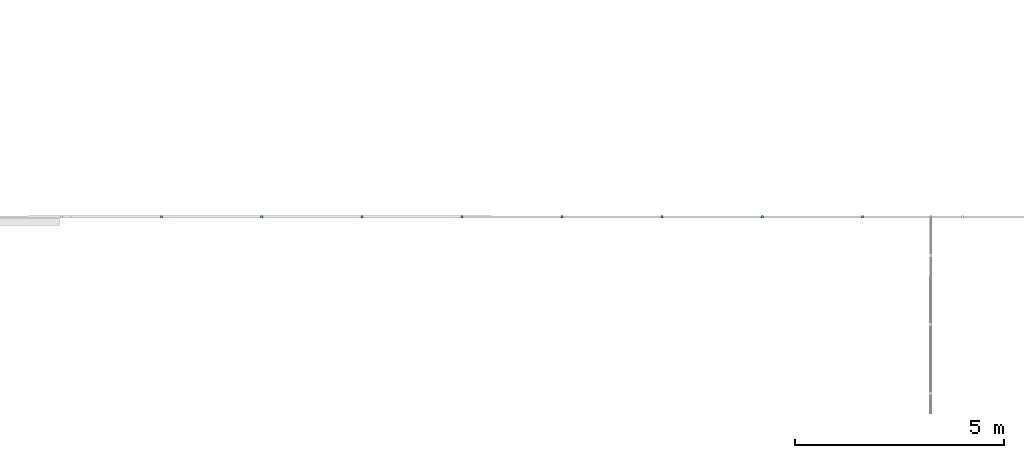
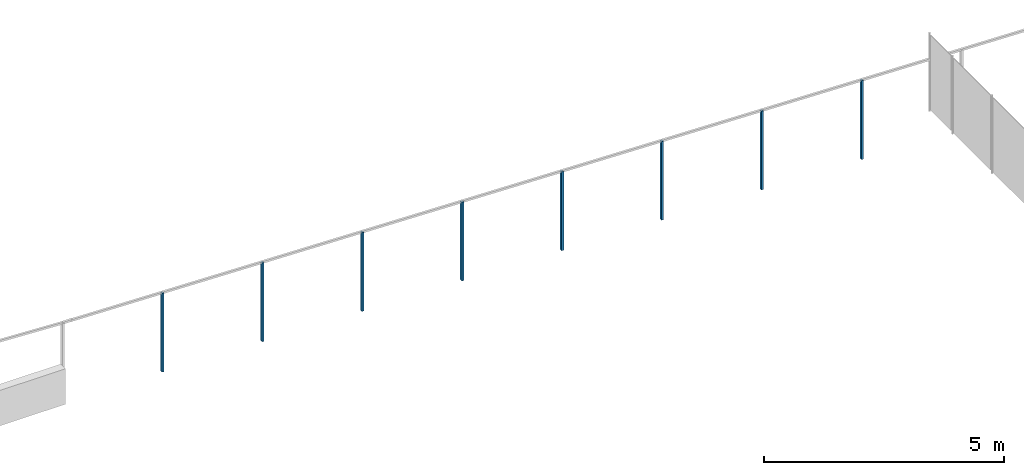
# One storey, part 64 of 91: 8 building element parts, 1 element without a shape of its own.
"""IFC2X3 building model written with IfcOpenShell, lengths in metres."""

from ifc_helpers import new_model, entity, si_unit, converted_unit, derived_unit, money_unit, direction, frame, origin_with_axes, place, context, subcontext, project, spatial, faceted_brep, material, type_object, element, aggregate, save


model = new_model("IFC2X3")

# Units and contexts
model_context = context("Model", 3, precision=1e-05, world=origin_with_axes(), true_north=direction((0.0, 1.0)))
body_context = subcontext(model_context, "Body", "Model", "MODEL_VIEW")
ifc_project = project(units=[si_unit("LENGTHUNIT", "METRE"), si_unit("AREAUNIT", "SQUARE_METRE"), si_unit("VOLUMEUNIT", "CUBIC_METRE"), converted_unit("PLANEANGLEUNIT", "DEGREE", entity("IfcPlaneAngleMeasure", 0.0174532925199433), si_unit("PLANEANGLEUNIT", "RADIAN"), dimensions=[0, 0, 0, 0, 0, 0, 0]), money_unit("EUR"), converted_unit("TIMEUNIT", "Year", entity("IfcTimeMeasure", 31557600.0), si_unit("TIMEUNIT", "SECOND"), dimensions=[0, 0, 1, 0, 0, 0, 0]), si_unit("MASSUNIT", "GRAM", prefix="KILO"), si_unit("THERMODYNAMICTEMPERATUREUNIT", "DEGREE_CELSIUS"), si_unit("LUMINOUSINTENSITYUNIT", "LUMEN"), si_unit("ENERGYUNIT", "JOULE", prefix="MEGA"), derived_unit("THERMALCONDUCTANCEUNIT", [(si_unit("POWERUNIT", "WATT"), 1), (si_unit("LENGTHUNIT", "METRE"), -1), (si_unit("THERMODYNAMICTEMPERATUREUNIT", "KELVIN"), -1)]), derived_unit("SPECIFICHEATCAPACITYUNIT", [(si_unit("ENERGYUNIT", "JOULE"), 1), (si_unit("MASSUNIT", "GRAM", prefix="KILO"), -1), (si_unit("THERMODYNAMICTEMPERATUREUNIT", "KELVIN"), -1)]), derived_unit("MASSDENSITYUNIT", [(si_unit("MASSUNIT", "GRAM", prefix="KILO"), 1), (si_unit("VOLUMEUNIT", "CUBIC_METRE"), -1)])], contexts=[model_context])

# Site, building, storey
site_placement = place(None, origin_with_axes())
site = spatial("IfcSite", under=ifc_project, at=site_placement, Name="Site", CompositionType="ELEMENT")
building_placement = place(site_placement, origin_with_axes())
building = spatial("IfcBuilding", under=site, at=building_placement, Name="Bâtiment", CompositionType="ELEMENT")
storey_placement = place(building_placement, origin_with_axes())
storey = spatial("IfcBuildingStorey", under=building, at=storey_placement, Name="RDC", CompositionType="ELEMENT", Elevation=0.0)

# Proxy, building element parts
building_element_proxy_type = type_object("IfcBuildingElementProxyType", Name="Type de garde-corps", PredefinedType="NOTDEFINED")
proxy_placement = place(storey_placement, frame((79.63337255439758, 3.614023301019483, -2.37161404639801), z_axis=(0.0, 0.0, 1.0), x_axis=(1.0, 0.0, 0.0)))
proxy = element("IfcBuildingElementProxy", 1, at=proxy_placement, inside=storey, type_object=building_element_proxy_type, Name="RAMPE-004")
ifc_material = material(Name="Acier Galva")
building_element_part_1_placement = place(proxy_placement, origin_with_axes())
building_element_part_1 = element("IfcBuildingElementPart", 2, at=building_element_part_1_placement, material=ifc_material, Name="Acier Galva", context=body_context, shape_type="Brep", body=[
    faceted_brep([(-32.26603368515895, 3.418790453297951, 1.744220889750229), (-32.26604590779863, 3.352790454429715, 1.744220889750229), (-32.26604590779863, 3.352790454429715, 3.744220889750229), (-32.26603368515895, 3.41879045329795, 3.744220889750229), (-32.21603368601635, 3.418781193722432, 1.742792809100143), (-32.21604590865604, 3.352781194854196, 1.742792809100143), (-32.21604590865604, 3.352781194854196, 3.742792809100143), (-32.21603368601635, 3.418781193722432, 3.742792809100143)], [[[0, 1, 2, 3]], [[0, 4, 5, 1]], [[1, 5, 6, 2]], [[3, 2, 6, 7]], [[4, 0, 3, 7]], [[5, 4, 7, 6]]]),
])
building_element_part_2_placement = place(proxy_placement, origin_with_axes())
building_element_part_2 = element("IfcBuildingElementPart", 3, at=building_element_part_2_placement, material=ifc_material, Name="Acier Galva", context=body_context, shape_type="Brep", body=[
    faceted_brep([(-34.66469285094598, 3.419234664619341, 1.812730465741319), (-34.66470507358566, 3.353234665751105, 1.812730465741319), (-34.66470507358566, 3.353234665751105, 3.812730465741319), (-34.66469285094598, 3.41923466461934, 3.812730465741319), (-34.61469285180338, 3.419225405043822, 1.811302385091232), (-34.61470507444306, 3.353225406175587, 1.811302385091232), (-34.61470507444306, 3.353225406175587, 3.811302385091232), (-34.61469285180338, 3.419225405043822, 3.811302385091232)], [[[0, 1, 2, 3]], [[0, 4, 5, 1]], [[1, 5, 6, 2]], [[3, 2, 6, 7]], [[4, 0, 3, 7]], [[5, 4, 7, 6]]]),
])
building_element_part_3_placement = place(proxy_placement, origin_with_axes())
building_element_part_3 = element("IfcBuildingElementPart", 4, at=building_element_part_3_placement, material=ifc_material, Name="Acier Galva", context=body_context, shape_type="Brep", body=[
    faceted_brep([(-37.06335201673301, 3.419678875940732, 1.881240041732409), (-37.06336423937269, 3.353678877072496, 1.881240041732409), (-37.06336423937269, 3.353678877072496, 3.881240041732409), (-37.06335201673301, 3.419678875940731, 3.881240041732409), (-37.01335201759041, 3.419669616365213, 1.879811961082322), (-37.01336424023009, 3.353669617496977, 1.879811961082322), (-37.01336424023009, 3.353669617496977, 3.879811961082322), (-37.01335201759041, 3.419669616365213, 3.879811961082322)], [[[0, 1, 2, 3]], [[0, 4, 5, 1]], [[1, 5, 6, 2]], [[3, 2, 6, 7]], [[4, 0, 3, 7]], [[5, 4, 7, 6]]]),
])
building_element_part_4_placement = place(proxy_placement, origin_with_axes())
building_element_part_4 = element("IfcBuildingElementPart", 5, at=building_element_part_4_placement, material=ifc_material, Name="Acier Galva", context=body_context, shape_type="Brep", body=[
    faceted_brep([(-39.46201118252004, 3.420123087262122, 1.949749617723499), (-39.46202340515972, 3.354123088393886, 1.949749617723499), (-39.46202340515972, 3.354123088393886, 3.949749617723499), (-39.46201118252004, 3.420123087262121, 3.949749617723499), (-39.41201118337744, 3.420113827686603, 1.948321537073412), (-39.41202340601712, 3.354113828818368, 1.948321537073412), (-39.41202340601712, 3.354113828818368, 3.948321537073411), (-39.41201118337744, 3.420113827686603, 3.948321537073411)], [[[0, 1, 2, 3]], [[0, 4, 5, 1]], [[1, 5, 6, 2]], [[3, 2, 6, 7]], [[4, 0, 3, 7]], [[5, 4, 7, 6]]]),
])
building_element_part_5_placement = place(proxy_placement, origin_with_axes())
building_element_part_5 = element("IfcBuildingElementPart", 6, at=building_element_part_5_placement, material=ifc_material, Name="Acier Galva", context=body_context, shape_type="Brep", body=[
    faceted_brep([(-41.86067034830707, 3.420567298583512, 2.018259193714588), (-41.86068257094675, 3.354567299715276, 2.018259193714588), (-41.86068257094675, 3.354567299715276, 4.018259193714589), (-41.86067034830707, 3.420567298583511, 4.018259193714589), (-41.81067034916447, 3.420558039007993, 2.016831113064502), (-41.81068257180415, 3.354558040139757, 2.016831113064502), (-41.81068257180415, 3.354558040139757, 4.016831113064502), (-41.81067034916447, 3.420558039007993, 4.016831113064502)], [[[0, 1, 2, 3]], [[0, 4, 5, 1]], [[1, 5, 6, 2]], [[3, 2, 6, 7]], [[4, 0, 3, 7]], [[5, 4, 7, 6]]]),
])
building_element_part_6_placement = place(proxy_placement, origin_with_axes())
building_element_part_6 = element("IfcBuildingElementPart", 7, at=building_element_part_6_placement, material=ifc_material, Name="Acier Galva", context=body_context, shape_type="Brep", body=[
    faceted_brep([(-44.2593295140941, 3.421011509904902, 2.086768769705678), (-44.25934173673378, 3.355011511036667, 2.086768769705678), (-44.25934173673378, 3.355011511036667, 4.086768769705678), (-44.2593295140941, 3.421011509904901, 4.086768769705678), (-44.2093295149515, 3.421002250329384, 2.085340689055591), (-44.20934173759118, 3.355002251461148, 2.085340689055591), (-44.20934173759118, 3.355002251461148, 4.085340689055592), (-44.2093295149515, 3.421002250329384, 4.085340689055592)], [[[0, 1, 2, 3]], [[0, 4, 5, 1]], [[1, 5, 6, 2]], [[3, 2, 6, 7]], [[4, 0, 3, 7]], [[5, 4, 7, 6]]]),
])
building_element_part_7_placement = place(proxy_placement, origin_with_axes())
building_element_part_7 = element("IfcBuildingElementPart", 8, at=building_element_part_7_placement, material=ifc_material, Name="Acier Galva", context=body_context, shape_type="Brep", body=[
    faceted_brep([(-46.65798867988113, 3.421455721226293, 2.155278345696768), (-46.65800090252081, 3.355455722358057, 2.155278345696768), (-46.65800090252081, 3.355455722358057, 4.155278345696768), (-46.65798867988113, 3.421455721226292, 4.155278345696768), (-46.60798868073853, 3.421446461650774, 2.153850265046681), (-46.60800090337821, 3.355446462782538, 2.153850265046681), (-46.60800090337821, 3.355446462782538, 4.153850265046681), (-46.60798868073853, 3.421446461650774, 4.153850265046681)], [[[0, 1, 2, 3]], [[0, 4, 5, 1]], [[1, 5, 6, 2]], [[3, 2, 6, 7]], [[4, 0, 3, 7]], [[5, 4, 7, 6]]]),
])
building_element_part_8_placement = place(proxy_placement, origin_with_axes())
building_element_part_8 = element("IfcBuildingElementPart", 9, at=building_element_part_8_placement, material=ifc_material, Name="Acier Galva", context=body_context, shape_type="Brep", body=[
    faceted_brep([(-49.05664784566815, 3.421899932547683, 2.223787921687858), (-49.05666006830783, 3.355899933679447, 2.223787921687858), (-49.05666006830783, 3.355899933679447, 4.223787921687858), (-49.05664784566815, 3.421899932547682, 4.223787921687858), (-49.00664784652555, 3.421890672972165, 2.222359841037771), (-49.00666006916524, 3.355890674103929, 2.222359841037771), (-49.00666006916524, 3.355890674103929, 4.222359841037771), (-49.00664784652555, 3.421890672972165, 4.222359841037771)], [[[0, 1, 2, 3]], [[0, 4, 5, 1]], [[1, 5, 6, 2]], [[3, 2, 6, 7]], [[4, 0, 3, 7]], [[5, 4, 7, 6]]]),
])
aggregate(proxy, [building_element_part_1, building_element_part_2, building_element_part_3, building_element_part_4, building_element_part_5, building_element_part_6, building_element_part_7, building_element_part_8])

save(model, "model.ifc")
